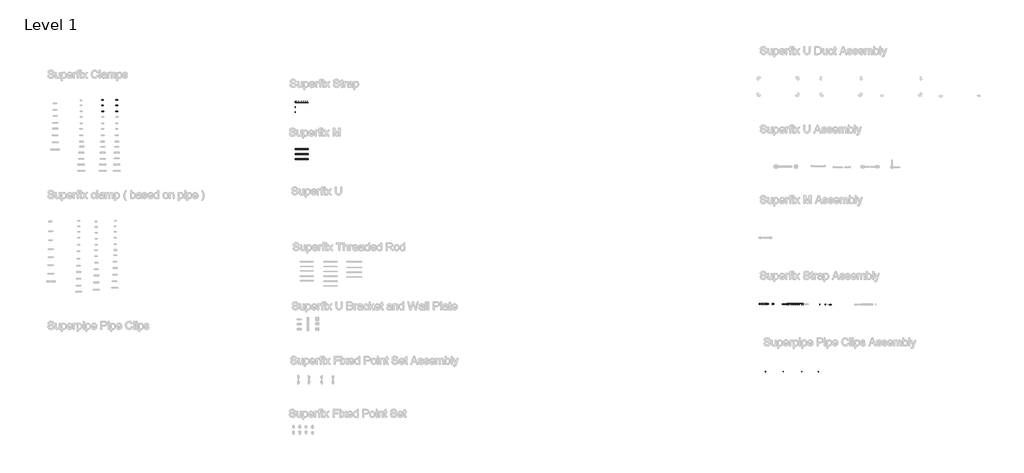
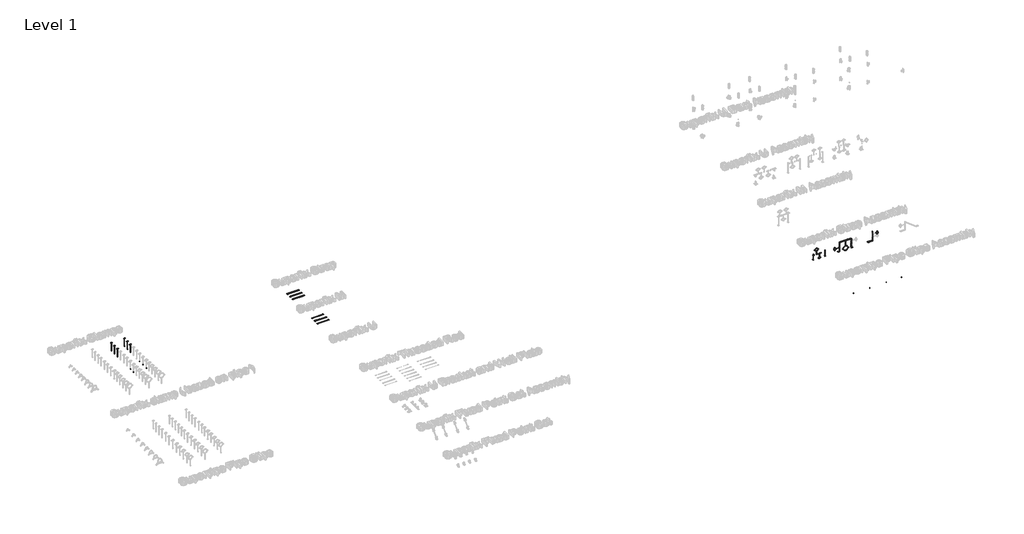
# One storey, part 5 of 32: 138 valves, 2 unitary equipment elements.
"""IFC4 building model written with IfcOpenShell, lengths in millimetres."""

from ifc_helpers import new_model, si_unit, origin, place, context, project, spatial, transform, mapped, element, save
from components import unitary_equipment_e487e5fd, valve_4cd83ece, valve_5304cde6, valve_b4b668c8, valve_03d34d46, valve_3ecbcef6, valve_9efe13c8, valve_b67d411c, valve_2c299770, valve_541e58e5, valve_9317ca73, valve_400a6949, valve_dc9e7541, valve_fd664f3f, valve_c1f0a65c, valve_76fbe92c, valve_fad8a5b8, valve_cdfc1e77, valve_7fccb85c, valve_54fbe6a6, valve_d78be41b, valve_1a68cbfa, hexagon_nut_galvanized_extra_m10_fcef541f, hexagon_nut_galvanized_extra_m8_53389388, valve_42e91783, superfix_hexagon_screw_galvanized_39733bb5, superfix_m_extra_beb970f8, superfix_strap_92ff0648, superfix_strap_170edda0, superfix_strap_0810b350, superfix_strap_981cfdac, superfix_strap_extra_1f4a646b

model = new_model("IFC4")

# Units and contexts
model_context = context("Model", 3, world=origin())
ifc_project = project(units=[si_unit("LENGTHUNIT", "METRE", prefix="MILLI")], contexts=[model_context])

# Site, building, storey
site = spatial("IfcSite", under=ifc_project)
building = spatial("IfcBuilding", under=site)
storey = spatial("IfcBuildingStorey", under=building, Name="Level 1", Elevation=0.0)

# Unitary equipment
placement = place(None, origin())
unitary_equipment_shape = unitary_equipment_e487e5fd(model_context)
element("IfcUnitaryEquipment", 1, ObjectType="1_INS_MQA-R : MQA-R", at=placement, inside=storey, context=model_context, shape_type="MappedRepresentation", body=[
    mapped(unitary_equipment_shape, transform((-22566.5211936, 20812.4684398, 0.0), x_axis=(0.0, 1.0, 0.0), y_axis=(-1.0, 0.0, 0.0), z_axis=(0.0, 0.0, 1.0))),
])
element("IfcUnitaryEquipment", 2, ObjectType="1_INS_MQA-R : MQA-R", at=placement, inside=storey, context=model_context, shape_type="MappedRepresentation", body=[
    mapped(unitary_equipment_shape, transform((-22066.5211936, 20812.4684398, 0.0), x_axis=(0.0, 1.0, 0.0), y_axis=(-1.0, 0.0, 0.0), z_axis=(0.0, 0.0, 1.0))),
])

# Valves
valve_shape = valve_4cd83ece(model_context)
element("IfcValve", 3, ObjectType="Superfix Threaded Rod (used for clamps) : Threaded Rod - 1000 mm (used for clamps)", at=placement, inside=storey, context=model_context, shape_type="MappedRepresentation", body=[
    mapped(valve_shape, transform((-22566.5211936, 20812.4684398, 0.0), x_axis=(0.0, 0.0, 1.0), y_axis=(1.0, 0.0, 0.0), z_axis=(0.0, 1.0, 0.0))),
])
element("IfcValve", 4, ObjectType="Superfix Threaded Rod (used for clamps) : Threaded Rod - 1000 mm (used for clamps)", at=placement, inside=storey, context=model_context, shape_type="MappedRepresentation", body=[
    mapped(valve_shape, transform((-22066.5211936, 20812.4684398, 0.0), x_axis=(0.0, 0.0, 1.0), y_axis=(1.0, 0.0, 0.0), z_axis=(0.0, 1.0, 0.0))),
])
valve_2_shape = valve_5304cde6(model_context)
element("IfcValve", 5, ObjectType="Superfix Threaded Rod (used for clamps) : Threaded Rod - 1000 mm (used for clamps)", at=placement, inside=storey, context=model_context, shape_type="MappedRepresentation", body=[
    mapped(valve_2_shape, transform((-22299.5211936, 20812.4684398, 202.0), x_axis=(0.0, 0.0, -1.0), y_axis=(-1.0, 0.0, 0.0), z_axis=(0.0, 1.0, 0.0))),
])
valve_3_shape = valve_b4b668c8(model_context)
element("IfcValve", 6, ObjectType="Superfix DG2 Clamp : Superfix DG2 Clamp", at=placement, inside=storey, context=model_context, shape_type="MappedRepresentation", body=[
    mapped(valve_3_shape, transform((-21204.0211936, 20799.485539, 402.0), x_axis=(0.0, -1.0, 0.0), y_axis=(-1.0, 0.0, 0.0), z_axis=(0.0, 0.0, -1.0))),
])
valve_4_shape = valve_03d34d46(model_context)
element("IfcValve", 7, ObjectType="Superfix DG2 Clamp : Superfix DG2 Clamp", at=placement, inside=storey, context=model_context, shape_type="MappedRepresentation", body=[
    mapped(valve_4_shape, transform((-22424.5211936, 20812.4684398, 202.0), x_axis=(0.0, 1.0, 0.0), y_axis=(-1.0, 0.0, 0.0), z_axis=(0.0, 0.0, 1.0))),
])
valve_5_shape = valve_3ecbcef6(model_context)
element("IfcValve", 8, ObjectType="Superfix Threaded Rod (used for clamps) : Threaded Rod - 1000 mm (used for clamps)", at=placement, inside=storey, context=model_context, shape_type="MappedRepresentation", body=[
    mapped(valve_5_shape, transform((-22424.5211936, 20812.4684398, 202.0), x_axis=(0.0, 0.0, 1.0), y_axis=(1.0, 0.0, 0.0), z_axis=(0.0, 1.0, 0.0))),
])
valve_6_shape = valve_9efe13c8(model_context)
element("IfcValve", 9, ObjectType="Superfix DG2 Clamp : Superfix DG2 Clamp", at=placement, inside=storey, context=model_context, shape_type="MappedRepresentation", body=[
    mapped(valve_6_shape, transform((-20075.2249053, 20789.480189, 287.5), x_axis=(0.0, 1.0, 0.0), y_axis=(0.0, 0.0, 1.0), z_axis=(1.0, 0.0, 0.0))),
])
element("IfcValve", 10, ObjectType="Superfix DG2 Clamp : Superfix DG2 Clamp", at=placement, inside=storey, context=model_context, shape_type="MappedRepresentation", body=[
    mapped(valve_6_shape, transform((-21464.5211936, 20799.485539, 167.25), x_axis=(0.0, -1.0, 0.0), y_axis=(0.0, 0.0, 1.0), z_axis=(-1.0, 0.0, 0.0))),
])
valve_7_shape = valve_b67d411c(model_context)
element("IfcValve", 11, ObjectType="Superfix Threaded Rod (used for clamps) : Threaded Rod - 1000 mm (used for clamps)", at=placement, inside=storey, context=model_context, shape_type="MappedRepresentation", body=[
    mapped(valve_7_shape, transform((-21464.5211936, 20799.485539, 167.25), x_axis=(-1.0, 0.0, 0.0), y_axis=(0.0, 0.0, -1.0), z_axis=(0.0, -1.0, 0.0))),
])
valve_8_shape = valve_2c299770(model_context)
element("IfcValve", 12, ObjectType="Superfix DG2 Clamp : Superfix DG2 Clamp", at=placement, inside=storey, context=model_context, shape_type="MappedRepresentation", body=[
    mapped(valve_8_shape, transform((-22299.5211936, 20812.4684398, 202.0), x_axis=(0.0, 1.0, 0.0), y_axis=(1.0, 0.0, 0.0), z_axis=(0.0, 0.0, -1.0))),
])
valve_9_shape = valve_541e58e5(model_context)
element("IfcValve", 13, ObjectType="Superfix DG2 Clamp Extra : Superfix DG2 Clamp Extra", at=placement, inside=storey, context=model_context, shape_type="MappedRepresentation", body=[
    mapped(valve_9_shape, transform((-47680.7889153, 28620.0778121, 0.0), x_axis=(0.0, -1.0, 0.0), y_axis=(1.0, 0.0, 0.0), z_axis=(0.0, 0.0, 1.0))),
])
valve_10_shape = valve_9317ca73(model_context)
element("IfcValve", 14, ObjectType="Superfix DG2 Clamp Extra : Superfix DG2 Clamp Extra", at=placement, inside=storey, context=model_context, shape_type="MappedRepresentation", body=[
    mapped(valve_10_shape, transform((-47674.2889153, 28179.0778121, 0.0), x_axis=(0.0, -1.0, 0.0), y_axis=(1.0, 0.0, 0.0), z_axis=(0.0, 0.0, 1.0))),
])
valve_11_shape = valve_400a6949(model_context)
element("IfcValve", 15, ObjectType="Superfix DG2 Clamp Extra : Superfix DG2 Clamp Extra", at=placement, inside=storey, context=model_context, shape_type="MappedRepresentation", body=[
    mapped(valve_11_shape, transform((-47679.2889153, 28400.0778121, 0.0), x_axis=(0.0, -1.0, 0.0), y_axis=(1.0, 0.0, 0.0), z_axis=(0.0, 0.0, 1.0))),
])
valve_12_shape = valve_dc9e7541(model_context)
element("IfcValve", 16, ObjectType="Superfix DG2 Clamp Extra + : Superfix DG2 Clamp Extra +", at=placement, inside=storey, context=model_context, shape_type="MappedRepresentation", body=[
    mapped(valve_12_shape, transform((-47132.8023141, 28620.0778121, 0.0), x_axis=(0.0, -1.0, 0.0), y_axis=(1.0, 0.0, 0.0), z_axis=(0.0, 0.0, 1.0))),
])
valve_13_shape = valve_fd664f3f(model_context)
element("IfcValve", 17, ObjectType="Superfix DG2 Clamp Extra + : Superfix DG2 Clamp Extra +", at=placement, inside=storey, context=model_context, shape_type="MappedRepresentation", body=[
    mapped(valve_13_shape, transform((-47134.3023141, 28400.0778121, 0.0), x_axis=(0.0, -1.0, 0.0), y_axis=(1.0, 0.0, 0.0), z_axis=(0.0, 0.0, 1.0))),
])
valve_14_shape = valve_c1f0a65c(model_context)
element("IfcValve", 18, ObjectType="Superfix DG2 Clamp Extra + : Superfix DG2 Clamp Extra +", at=placement, inside=storey, context=model_context, shape_type="MappedRepresentation", body=[
    mapped(valve_14_shape, transform((-47132.8023141, 28179.0778121, 0.0), x_axis=(0.0, -1.0, 0.0), y_axis=(1.0, 0.0, 0.0), z_axis=(0.0, 0.0, 1.0))),
])
valve_15_shape = valve_76fbe92c(model_context)
element("IfcValve", 19, ObjectType="Superfix Flat Washer : Superfix Flat Washer M4x10x1", at=placement, inside=storey, context=model_context, shape_type="MappedRepresentation", body=[
    mapped(valve_15_shape, transform((-22353.6380687, 18221.8902814, -2.008864), x_axis=(1.0, 0.0, 0.0), y_axis=(0.0, -1.0, 0.0), z_axis=(0.0, 0.0, -1.0))),
])
element("IfcValve", 20, ObjectType="Superfix Flat Washer : Superfix Flat Washer M4x10x1", at=placement, inside=storey, context=model_context, shape_type="MappedRepresentation", body=[
    mapped(valve_15_shape, transform((-21673.6380687, 18221.8902814, -2.008864), x_axis=(1.0, 0.0, 0.0), y_axis=(0.0, -1.0, 0.0), z_axis=(0.0, 0.0, -1.0))),
])
element("IfcValve", 21, ObjectType="Superfix Flat Washer : Superfix Flat Washer M4x10x1", at=placement, inside=storey, context=model_context, shape_type="MappedRepresentation", body=[
    mapped(valve_15_shape, transform((-20973.6380687, 18221.8902814, -2.008864), x_axis=(1.0, 0.0, 0.0), y_axis=(0.0, -1.0, 0.0), z_axis=(0.0, 0.0, -1.0))),
])
element("IfcValve", 22, ObjectType="Superfix Flat Washer : Superfix Flat Washer M4x10x1", at=placement, inside=storey, context=model_context, shape_type="MappedRepresentation", body=[
    mapped(valve_15_shape, transform((-20333.6380687, 18221.8902814, -2.008864), x_axis=(1.0, 0.0, 0.0), y_axis=(0.0, -1.0, 0.0), z_axis=(0.0, 0.0, -1.0))),
])
element("IfcValve", 23, ObjectType="Superfix Flat Washer : Superfix Flat Washer M4x10x1", at=placement, inside=storey, context=model_context, shape_type="MappedRepresentation", body=[
    mapped(valve_15_shape, transform((-21363.2711936, 20799.485539, 399.991136), x_axis=(1.0, 0.0, 0.0), y_axis=(0.0, -1.0, 0.0), z_axis=(0.0, 0.0, -1.0))),
])
element("IfcValve", 24, ObjectType="Superfix Flat Washer : Superfix Flat Washer M4x10x1", at=placement, inside=storey, context=model_context, shape_type="MappedRepresentation", body=[
    mapped(valve_15_shape, transform((-21275.4513629, 20799.485539, 399.991136), x_axis=(1.0, 0.0, 0.0), y_axis=(0.0, -1.0, 0.0), z_axis=(0.0, 0.0, -1.0))),
])
element("IfcValve", 25, ObjectType="Superfix Flat Washer : Superfix Flat Washer M4x10x1", at=placement, inside=storey, context=model_context, shape_type="MappedRepresentation", body=[
    mapped(valve_15_shape, transform((-21466.5300576, 20799.485539, 267.1301694), x_axis=(0.0, 0.0, -1.0), y_axis=(0.0, -1.0, 0.0), z_axis=(-1.0, 0.0, 0.0))),
])
element("IfcValve", 26, ObjectType="Superfix Flat Washer : Superfix Flat Washer M4x10x1", at=placement, inside=storey, context=model_context, shape_type="MappedRepresentation", body=[
    mapped(valve_15_shape, transform((-21466.5300576, 20799.485539, 50.5301694), x_axis=(0.0, 0.0, -1.0), y_axis=(0.0, -1.0, 0.0), z_axis=(-1.0, 0.0, 0.0))),
])
element("IfcValve", 27, ObjectType="Superfix Flat Washer : Superfix Flat Washer M4x10x1", at=placement, inside=storey, context=model_context, shape_type="MappedRepresentation", body=[
    mapped(valve_15_shape, transform((-21130.6477011, 20799.485539, 399.991136), x_axis=(1.0, 0.0, 0.0), y_axis=(0.0, -1.0, 0.0), z_axis=(0.0, 0.0, -1.0))),
])
element("IfcValve", 28, ObjectType="Superfix Flat Washer : Superfix Flat Washer M4x10x1", at=placement, inside=storey, context=model_context, shape_type="MappedRepresentation", body=[
    mapped(valve_15_shape, transform((-22375.4013629, 20812.4684398, 204.008864), x_axis=(1.0, 0.0, 0.0), y_axis=(0.0, 1.0, 0.0), z_axis=(0.0, 0.0, 1.0))),
])
element("IfcValve", 29, ObjectType="Superfix Flat Washer : Superfix Flat Washer M4x10x1", at=placement, inside=storey, context=model_context, shape_type="MappedRepresentation", body=[
    mapped(valve_15_shape, transform((-22237.2711936, 20812.4684398, 204.008864), x_axis=(1.0, 0.0, 0.0), y_axis=(0.0, 1.0, 0.0), z_axis=(0.0, 0.0, 1.0))),
])
element("IfcValve", 30, ObjectType="Superfix Flat Washer : Superfix Flat Washer M4x10x1", at=placement, inside=storey, context=model_context, shape_type="MappedRepresentation", body=[
    mapped(valve_15_shape, transform((-22517.0513629, 20812.4684398, 204.008864), x_axis=(1.0, 0.0, 0.0), y_axis=(0.0, 1.0, 0.0), z_axis=(0.0, 0.0, 1.0))),
])
valve_16_shape = valve_fad8a5b8(model_context)
element("IfcValve", 31, ObjectType="Superfix Flat Washer : Superfix Flat Washer M8x15x1.5", at=placement, inside=storey, context=model_context, shape_type="MappedRepresentation", body=[
    mapped(valve_16_shape, transform((-22566.5211936, 20812.4684398, 198.4), x_axis=(0.0, 1.0, 0.0), y_axis=(-1.0, 0.0, 0.0), z_axis=(0.0, 0.0, 1.0))),
])
element("IfcValve", 32, ObjectType="Superfix Flat Washer : Superfix Flat Washer M8x15x1.5", at=placement, inside=storey, context=model_context, shape_type="MappedRepresentation", body=[
    mapped(valve_16_shape, transform((-22566.5211936, 20812.4684398, 203.0), x_axis=(0.0, 1.0, 0.0), y_axis=(-1.0, 0.0, 0.0), z_axis=(0.0, 0.0, 1.0))),
])
element("IfcValve", 33, ObjectType="Superfix Flat Washer : Superfix Flat Washer M8x15x1.5", at=placement, inside=storey, context=model_context, shape_type="MappedRepresentation", body=[
    mapped(valve_16_shape, transform((-22066.5211936, 20812.4684398, 203.0), x_axis=(0.0, 1.0, 0.0), y_axis=(-1.0, 0.0, 0.0), z_axis=(0.0, 0.0, 1.0))),
])
element("IfcValve", 34, ObjectType="Superfix Flat Washer : Superfix Flat Washer M8x15x1.5", at=placement, inside=storey, context=model_context, shape_type="MappedRepresentation", body=[
    mapped(valve_16_shape, transform((-22066.5211936, 20812.4684398, 198.4), x_axis=(0.0, 1.0, 0.0), y_axis=(-1.0, 0.0, 0.0), z_axis=(0.0, 0.0, 1.0))),
])
element("IfcValve", 35, ObjectType="Superfix Flat Washer : Superfix Flat Washer M8x15x1.5", at=placement, inside=storey, context=model_context, shape_type="MappedRepresentation", body=[
    mapped(valve_16_shape, transform((-22299.5211936, 20812.4684398, 199.0), x_axis=(0.0, 1.0, 0.0), y_axis=(1.0, 0.0, 0.0), z_axis=(0.0, 0.0, -1.0))),
])
element("IfcValve", 36, ObjectType="Superfix Flat Washer : Superfix Flat Washer M8x15x1.5", at=placement, inside=storey, context=model_context, shape_type="MappedRepresentation", body=[
    mapped(valve_16_shape, transform((-22299.5211936, 20812.4684398, 203.6), x_axis=(0.0, 1.0, 0.0), y_axis=(1.0, 0.0, 0.0), z_axis=(0.0, 0.0, -1.0))),
])
valve_17_shape = valve_cdfc1e77(model_context)
element("IfcValve", 37, ObjectType="Superfix Flat Washer : Superfix Flat Washer M10x20x1.5", at=placement, inside=storey, context=model_context, shape_type="MappedRepresentation", body=[
    mapped(valve_17_shape, transform((-21467.5211936, 20799.485539, 167.25), x_axis=(0.0, -1.0, 0.0), y_axis=(0.0, 0.0, 1.0), z_axis=(-1.0, 0.0, 0.0))),
])
element("IfcValve", 38, ObjectType="Superfix Flat Washer : Superfix Flat Washer M10x20x1.5", at=placement, inside=storey, context=model_context, shape_type="MappedRepresentation", body=[
    mapped(valve_17_shape, transform((-21462.5211936, 20799.485539, 167.25), x_axis=(0.0, -1.0, 0.0), y_axis=(0.0, 0.0, 1.0), z_axis=(-1.0, 0.0, 0.0))),
])
element("IfcValve", 39, ObjectType="Superfix Flat Washer : Superfix Flat Washer M10x20x1.5", at=placement, inside=storey, context=model_context, shape_type="MappedRepresentation", body=[
    mapped(valve_17_shape, transform((-21204.0211936, 20799.485539, 399.0), x_axis=(0.0, -1.0, 0.0), y_axis=(-1.0, 0.0, 0.0), z_axis=(0.0, 0.0, -1.0))),
])
element("IfcValve", 40, ObjectType="Superfix Flat Washer : Superfix Flat Washer M10x20x1.5", at=placement, inside=storey, context=model_context, shape_type="MappedRepresentation", body=[
    mapped(valve_17_shape, transform((-21204.0211936, 20799.485539, 404.0), x_axis=(0.0, -1.0, 0.0), y_axis=(-1.0, 0.0, 0.0), z_axis=(0.0, 0.0, -1.0))),
])
element("IfcValve", 41, ObjectType="Superfix Flat Washer : Superfix Flat Washer M10x20x1.5", at=placement, inside=storey, context=model_context, shape_type="MappedRepresentation", body=[
    mapped(valve_17_shape, transform((-22424.5211936, 20812.4684398, 205.0), x_axis=(0.0, 1.0, 0.0), y_axis=(-1.0, 0.0, 0.0), z_axis=(0.0, 0.0, 1.0))),
])
element("IfcValve", 42, ObjectType="Superfix Flat Washer : Superfix Flat Washer M10x20x1.5", at=placement, inside=storey, context=model_context, shape_type="MappedRepresentation", body=[
    mapped(valve_17_shape, transform((-22424.5211936, 20812.4684398, 200.0), x_axis=(0.0, 1.0, 0.0), y_axis=(-1.0, 0.0, 0.0), z_axis=(0.0, 0.0, 1.0))),
])
element("IfcValve", 43, ObjectType="Superfix Flat Washer : Superfix Flat Washer Extra M8x15x1.5", at=placement, inside=storey, context=model_context, shape_type="MappedRepresentation", body=[
    mapped(valve_16_shape, transform((-47680.7889153, 28620.0778121, 5.0), x_axis=(1.0, 0.0, 0.0), y_axis=(0.0, 1.0, 0.0), z_axis=(0.0, 0.0, 1.0))),
])
element("IfcValve", 44, ObjectType="Superfix Flat Washer : Superfix Flat Washer Extra M8x15x1.5", at=placement, inside=storey, context=model_context, shape_type="MappedRepresentation", body=[
    mapped(valve_16_shape, transform((-47680.7889153, 28620.0778121, -1.6), x_axis=(1.0, 0.0, 0.0), y_axis=(0.0, 1.0, 0.0), z_axis=(0.0, 0.0, 1.0))),
])
element("IfcValve", 45, ObjectType="Superfix Flat Washer : Superfix Flat Washer Extra M8x15x1.5", at=placement, inside=storey, context=model_context, shape_type="MappedRepresentation", body=[
    mapped(valve_16_shape, transform((-47679.2889153, 28400.0778121, 5.0), x_axis=(1.0, 0.0, 0.0), y_axis=(0.0, 1.0, 0.0), z_axis=(0.0, 0.0, 1.0))),
])
element("IfcValve", 46, ObjectType="Superfix Flat Washer : Superfix Flat Washer Extra M8x15x1.5", at=placement, inside=storey, context=model_context, shape_type="MappedRepresentation", body=[
    mapped(valve_16_shape, transform((-47679.2889153, 28400.0778121, -1.6), x_axis=(1.0, 0.0, 0.0), y_axis=(0.0, 1.0, 0.0), z_axis=(0.0, 0.0, 1.0))),
])
element("IfcValve", 47, ObjectType="Superfix Flat Washer : Superfix Flat Washer Extra M8x15x1.5", at=placement, inside=storey, context=model_context, shape_type="MappedRepresentation", body=[
    mapped(valve_16_shape, transform((-47674.2889153, 28179.0778121, 5.0), x_axis=(1.0, 0.0, 0.0), y_axis=(0.0, 1.0, 0.0), z_axis=(0.0, 0.0, 1.0))),
])
element("IfcValve", 48, ObjectType="Superfix Flat Washer : Superfix Flat Washer Extra M8x15x1.5", at=placement, inside=storey, context=model_context, shape_type="MappedRepresentation", body=[
    mapped(valve_16_shape, transform((-47674.2889153, 28179.0778121, -1.6), x_axis=(1.0, 0.0, 0.0), y_axis=(0.0, 1.0, 0.0), z_axis=(0.0, 0.0, 1.0))),
])
element("IfcValve", 49, ObjectType="Superfix Flat Washer : Superfix Flat Washer EXtra M10x20x1.5", at=placement, inside=storey, context=model_context, shape_type="MappedRepresentation", body=[
    mapped(valve_17_shape, transform((-47669.2889153, 27260.0778121, 5.0), x_axis=(1.0, 0.0, 0.0), y_axis=(0.0, 1.0, 0.0), z_axis=(0.0, 0.0, 1.0))),
])
element("IfcValve", 50, ObjectType="Superfix Flat Washer : Superfix Flat Washer EXtra M10x20x1.5", at=placement, inside=storey, context=model_context, shape_type="MappedRepresentation", body=[
    mapped(valve_17_shape, transform((-47669.2889153, 27260.0778121, -2.0), x_axis=(1.0, 0.0, 0.0), y_axis=(0.0, 1.0, 0.0), z_axis=(0.0, 0.0, 1.0))),
])
element("IfcValve", 51, ObjectType="Superfix Flat Washer : Superfix Flat Washer EXtra M10x20x1.5", at=placement, inside=storey, context=model_context, shape_type="MappedRepresentation", body=[
    mapped(valve_17_shape, transform((-47669.2889153, 27020.0778121, 5.0), x_axis=(1.0, 0.0, 0.0), y_axis=(0.0, 1.0, 0.0), z_axis=(0.0, 0.0, 1.0))),
])
element("IfcValve", 52, ObjectType="Superfix Flat Washer : Superfix Flat Washer EXtra M10x20x1.5", at=placement, inside=storey, context=model_context, shape_type="MappedRepresentation", body=[
    mapped(valve_17_shape, transform((-47669.2889153, 27020.0778121, -2.0), x_axis=(1.0, 0.0, 0.0), y_axis=(0.0, 1.0, 0.0), z_axis=(0.0, 0.0, 1.0))),
])
element("IfcValve", 53, ObjectType="Superfix Flat Washer : Superfix Flat Washer Extra +  M8x15x1.5", at=placement, inside=storey, context=model_context, shape_type="MappedRepresentation", body=[
    mapped(valve_16_shape, transform((-47132.8023141, 28620.0778121, -1.6), x_axis=(1.0, 0.0, 0.0), y_axis=(0.0, 1.0, 0.0), z_axis=(0.0, 0.0, 1.0))),
])
element("IfcValve", 54, ObjectType="Superfix Flat Washer : Superfix Flat Washer Extra +  M8x15x1.5", at=placement, inside=storey, context=model_context, shape_type="MappedRepresentation", body=[
    mapped(valve_16_shape, transform((-47132.8023141, 28620.0778121, 5.0), x_axis=(1.0, 0.0, 0.0), y_axis=(0.0, 1.0, 0.0), z_axis=(0.0, 0.0, 1.0))),
])
element("IfcValve", 55, ObjectType="Superfix Flat Washer : Superfix Flat Washer Extra +  M8x15x1.5", at=placement, inside=storey, context=model_context, shape_type="MappedRepresentation", body=[
    mapped(valve_16_shape, transform((-47134.3023141, 28400.0778121, -1.6), x_axis=(1.0, 0.0, 0.0), y_axis=(0.0, 1.0, 0.0), z_axis=(0.0, 0.0, 1.0))),
])
element("IfcValve", 56, ObjectType="Superfix Flat Washer : Superfix Flat Washer Extra +  M8x15x1.5", at=placement, inside=storey, context=model_context, shape_type="MappedRepresentation", body=[
    mapped(valve_16_shape, transform((-47134.3023141, 28400.0778121, 5.0), x_axis=(1.0, 0.0, 0.0), y_axis=(0.0, 1.0, 0.0), z_axis=(0.0, 0.0, 1.0))),
])
element("IfcValve", 57, ObjectType="Superfix Flat Washer : Superfix Flat Washer Extra +  M8x15x1.5", at=placement, inside=storey, context=model_context, shape_type="MappedRepresentation", body=[
    mapped(valve_16_shape, transform((-47132.8023141, 28179.0778121, -1.6), x_axis=(1.0, 0.0, 0.0), y_axis=(0.0, 1.0, 0.0), z_axis=(0.0, 0.0, 1.0))),
])
element("IfcValve", 58, ObjectType="Superfix Flat Washer : Superfix Flat Washer Extra +  M8x15x1.5", at=placement, inside=storey, context=model_context, shape_type="MappedRepresentation", body=[
    mapped(valve_16_shape, transform((-47132.8023141, 28179.0778121, 5.0), x_axis=(1.0, 0.0, 0.0), y_axis=(0.0, 1.0, 0.0), z_axis=(0.0, 0.0, 1.0))),
])
element("IfcValve", 59, ObjectType="Superfix Flat Washer : Superfix Flat Washer Extra +  M8x15x1.5", at=placement, inside=storey, context=model_context, shape_type="MappedRepresentation", body=[
    mapped(valve_16_shape, transform((-47132.8023141, 27500.0778121, -1.6), x_axis=(1.0, 0.0, 0.0), y_axis=(0.0, 1.0, 0.0), z_axis=(0.0, 0.0, 1.0))),
])
element("IfcValve", 60, ObjectType="Superfix Flat Washer : Superfix Flat Washer Extra +  M8x15x1.5", at=placement, inside=storey, context=model_context, shape_type="MappedRepresentation", body=[
    mapped(valve_16_shape, transform((-47132.8023141, 27500.0778121, 5.0), x_axis=(1.0, 0.0, 0.0), y_axis=(0.0, 1.0, 0.0), z_axis=(0.0, 0.0, 1.0))),
])
element("IfcValve", 61, ObjectType="Superfix Flat Washer : Superfix Flat Washer EXtra +  M10x20x1.5", at=placement, inside=storey, context=model_context, shape_type="MappedRepresentation", body=[
    mapped(valve_17_shape, transform((-47132.8023141, 27260.0778121, -2.0), x_axis=(1.0, 0.0, 0.0), y_axis=(0.0, 1.0, 0.0), z_axis=(0.0, 0.0, 1.0))),
])
element("IfcValve", 62, ObjectType="Superfix Flat Washer : Superfix Flat Washer EXtra +  M10x20x1.5", at=placement, inside=storey, context=model_context, shape_type="MappedRepresentation", body=[
    mapped(valve_17_shape, transform((-47132.8023141, 27260.0778121, 5.0), x_axis=(1.0, 0.0, 0.0), y_axis=(0.0, 1.0, 0.0), z_axis=(0.0, 0.0, 1.0))),
])
element("IfcValve", 63, ObjectType="Superfix Flat Washer : Superfix Flat Washer EXtra +  M10x20x1.5", at=placement, inside=storey, context=model_context, shape_type="MappedRepresentation", body=[
    mapped(valve_17_shape, transform((-47132.8023141, 27020.0778121, -2.0), x_axis=(1.0, 0.0, 0.0), y_axis=(0.0, 1.0, 0.0), z_axis=(0.0, 0.0, 1.0))),
])
element("IfcValve", 64, ObjectType="Superfix Flat Washer : Superfix Flat Washer EXtra +  M10x20x1.5", at=placement, inside=storey, context=model_context, shape_type="MappedRepresentation", body=[
    mapped(valve_17_shape, transform((-47132.8023141, 27020.0778121, 5.0), x_axis=(1.0, 0.0, 0.0), y_axis=(0.0, 1.0, 0.0), z_axis=(0.0, 0.0, 1.0))),
])
valve_18_shape = valve_7fccb85c(model_context)
element("IfcValve", 65, ObjectType="Superfix Threaded Rod (used for clamps) : Threaded Rod - 1000 mm (used for clamps)", at=placement, inside=storey, context=model_context, shape_type="MappedRepresentation", body=[
    mapped(valve_18_shape, transform((-21204.0211936, 20799.485539, 402.0), x_axis=(0.0, 0.0, -1.0), y_axis=(1.0, 0.0, 0.0), z_axis=(0.0, -1.0, 0.0))),
])
valve_19_shape = valve_54fbe6a6(model_context)
element("IfcValve", 66, ObjectType="Superfix Threaded Rod (used for clamps) : Threaded Rod  Extra  - 1000 mm (used for clamps)", at=placement, inside=storey, context=model_context, shape_type="MappedRepresentation", body=[
    mapped(valve_19_shape, transform((-47680.7889153, 28620.0778121, 0.0), x_axis=(0.0, 0.0, 1.0), y_axis=(-1.0, 0.0, 0.0), z_axis=(0.0, -1.0, 0.0))),
])
element("IfcValve", 67, ObjectType="Superfix Threaded Rod (used for clamps) : Threaded Rod - 1000 mm (used for clamps)", at=placement, inside=storey, context=model_context, shape_type="MappedRepresentation", body=[
    mapped(valve_19_shape, transform((-47132.8023141, 28620.0778121, 0.0), x_axis=(0.0, 0.0, 1.0), y_axis=(-1.0, 0.0, 0.0), z_axis=(0.0, -1.0, 0.0))),
])
valve_20_shape = valve_d78be41b(model_context)
element("IfcValve", 68, ObjectType="Superfix Threaded Rod (used for clamps) : Threaded Rod  Extra  - 1000 mm (used for clamps)", at=placement, inside=storey, context=model_context, shape_type="MappedRepresentation", body=[
    mapped(valve_20_shape, transform((-47679.2889153, 28400.0778121, 0.0), x_axis=(0.0, 0.0, 1.0), y_axis=(-1.0, 0.0, 0.0), z_axis=(0.0, -1.0, 0.0))),
])
valve_21_shape = valve_1a68cbfa(model_context)
element("IfcValve", 69, ObjectType="Superfix Threaded Rod (used for clamps) : Threaded Rod  Extra  - 1000 mm (used for clamps)", at=placement, inside=storey, context=model_context, shape_type="MappedRepresentation", body=[
    mapped(valve_21_shape, transform((-47674.2889153, 28179.0778121, 0.0), x_axis=(0.0, 0.0, 1.0), y_axis=(-1.0, 0.0, 0.0), z_axis=(0.0, -1.0, 0.0))),
])
element("IfcValve", 70, ObjectType="Superfix Threaded Rod (used for clamps) : Threaded Rod - 1000 mm (used for clamps)", at=placement, inside=storey, context=model_context, shape_type="MappedRepresentation", body=[
    mapped(valve_20_shape, transform((-47134.3023141, 28400.0778121, 0.0), x_axis=(0.0, 0.0, 1.0), y_axis=(-1.0, 0.0, 0.0), z_axis=(0.0, -1.0, 0.0))),
])
element("IfcValve", 71, ObjectType="Superfix Threaded Rod (used for clamps) : Threaded Rod - 1000 mm (used for clamps)", at=placement, inside=storey, context=model_context, shape_type="MappedRepresentation", body=[
    mapped(valve_21_shape, transform((-47132.8023141, 28179.0778121, 0.0), x_axis=(0.0, 0.0, 1.0), y_axis=(-1.0, 0.0, 0.0), z_axis=(0.0, -1.0, 0.0))),
])
hexagon_nut_galvanized_extra_m10_shape = hexagon_nut_galvanized_extra_m10_fcef541f(model_context)
element("IfcValve", 72, ObjectType="Superfix Hexagon Nut Galvanized : Hexagon Nut Galvanized Extra + M10", at=placement, inside=storey, context=model_context, shape_type="MappedRepresentation", body=[
    mapped(hexagon_nut_galvanized_extra_m10_shape, transform((-47132.8023141, 27260.0778121, 0.0), x_axis=(0.0, -1.0, 0.0), y_axis=(-1.0, 0.0, 0.0), z_axis=(0.0, 0.0, -1.0))),
])
element("IfcValve", 73, ObjectType="Superfix Hexagon Nut Galvanized : Hexagon Nut Galvanized Extra + M10", at=placement, inside=storey, context=model_context, shape_type="MappedRepresentation", body=[
    mapped(hexagon_nut_galvanized_extra_m10_shape, transform((-47132.8023141, 27260.0778121, 5.0), x_axis=(0.0, -1.0, 0.0), y_axis=(1.0, 0.0, 0.0), z_axis=(0.0, 0.0, 1.0))),
])
element("IfcValve", 74, ObjectType="Superfix Hexagon Nut Galvanized : Hexagon Nut Galvanized Extra + M10", at=placement, inside=storey, context=model_context, shape_type="MappedRepresentation", body=[
    mapped(hexagon_nut_galvanized_extra_m10_shape, transform((-47132.8023141, 27020.0778121, 0.0), x_axis=(0.0, -1.0, 0.0), y_axis=(-1.0, 0.0, 0.0), z_axis=(0.0, 0.0, -1.0))),
])
element("IfcValve", 75, ObjectType="Superfix Hexagon Nut Galvanized : Hexagon Nut Galvanized Extra + M10", at=placement, inside=storey, context=model_context, shape_type="MappedRepresentation", body=[
    mapped(hexagon_nut_galvanized_extra_m10_shape, transform((-47132.8023141, 27020.0778121, 5.0), x_axis=(0.0, -1.0, 0.0), y_axis=(1.0, 0.0, 0.0), z_axis=(0.0, 0.0, 1.0))),
])
hexagon_nut_galvanized_extra_m8_shape = hexagon_nut_galvanized_extra_m8_53389388(model_context)
element("IfcValve", 76, ObjectType="Superfix Hexagon Nut Galvanized : Hexagon Nut Galvanized Extra +M8", at=placement, inside=storey, context=model_context, shape_type="MappedRepresentation", body=[
    mapped(hexagon_nut_galvanized_extra_m8_shape, transform((-47132.8023141, 28620.0778121, 0.0), x_axis=(0.0, -1.0, 0.0), y_axis=(-1.0, 0.0, 0.0), z_axis=(0.0, 0.0, -1.0))),
])
element("IfcValve", 77, ObjectType="Superfix Hexagon Nut Galvanized : Hexagon Nut Galvanized Extra +M8", at=placement, inside=storey, context=model_context, shape_type="MappedRepresentation", body=[
    mapped(hexagon_nut_galvanized_extra_m8_shape, transform((-47132.8023141, 28620.0778121, 5.0), x_axis=(0.0, -1.0, 0.0), y_axis=(1.0, 0.0, 0.0), z_axis=(0.0, 0.0, 1.0))),
])
element("IfcValve", 78, ObjectType="Superfix Hexagon Nut Galvanized : Hexagon Nut Galvanized Extra +M8", at=placement, inside=storey, context=model_context, shape_type="MappedRepresentation", body=[
    mapped(hexagon_nut_galvanized_extra_m8_shape, transform((-47134.3023141, 28400.0778121, 0.0), x_axis=(0.0, -1.0, 0.0), y_axis=(-1.0, 0.0, 0.0), z_axis=(0.0, 0.0, -1.0))),
])
element("IfcValve", 79, ObjectType="Superfix Hexagon Nut Galvanized : Hexagon Nut Galvanized Extra +M8", at=placement, inside=storey, context=model_context, shape_type="MappedRepresentation", body=[
    mapped(hexagon_nut_galvanized_extra_m8_shape, transform((-47134.3023141, 28400.0778121, 5.0), x_axis=(0.0, -1.0, 0.0), y_axis=(1.0, 0.0, 0.0), z_axis=(0.0, 0.0, 1.0))),
])
element("IfcValve", 80, ObjectType="Superfix Hexagon Nut Galvanized : Hexagon Nut Galvanized Extra +M8", at=placement, inside=storey, context=model_context, shape_type="MappedRepresentation", body=[
    mapped(hexagon_nut_galvanized_extra_m8_shape, transform((-47132.8023141, 28179.0778121, 0.0), x_axis=(0.0, -1.0, 0.0), y_axis=(-1.0, 0.0, 0.0), z_axis=(0.0, 0.0, -1.0))),
])
element("IfcValve", 81, ObjectType="Superfix Hexagon Nut Galvanized : Hexagon Nut Galvanized Extra +M8", at=placement, inside=storey, context=model_context, shape_type="MappedRepresentation", body=[
    mapped(hexagon_nut_galvanized_extra_m8_shape, transform((-47132.8023141, 28179.0778121, 5.0), x_axis=(0.0, -1.0, 0.0), y_axis=(1.0, 0.0, 0.0), z_axis=(0.0, 0.0, 1.0))),
])
element("IfcValve", 82, ObjectType="Superfix Hexagon Nut Galvanized : Hexagon Nut Galvanized Extra M10", at=placement, inside=storey, context=model_context, shape_type="MappedRepresentation", body=[
    mapped(hexagon_nut_galvanized_extra_m10_shape, transform((-47669.2889153, 27260.0778121, 0.0), x_axis=(0.0, -1.0, 0.0), y_axis=(-1.0, 0.0, 0.0), z_axis=(0.0, 0.0, -1.0))),
])
element("IfcValve", 83, ObjectType="Superfix Hexagon Nut Galvanized : Hexagon Nut Galvanized Extra M10", at=placement, inside=storey, context=model_context, shape_type="MappedRepresentation", body=[
    mapped(hexagon_nut_galvanized_extra_m10_shape, transform((-47669.2889153, 27260.0778121, 5.0), x_axis=(0.0, -1.0, 0.0), y_axis=(1.0, 0.0, 0.0), z_axis=(0.0, 0.0, 1.0))),
])
element("IfcValve", 84, ObjectType="Superfix Hexagon Nut Galvanized : Hexagon Nut Galvanized Extra M10", at=placement, inside=storey, context=model_context, shape_type="MappedRepresentation", body=[
    mapped(hexagon_nut_galvanized_extra_m10_shape, transform((-47669.2889153, 27020.0778121, 0.0), x_axis=(0.0, -1.0, 0.0), y_axis=(-1.0, 0.0, 0.0), z_axis=(0.0, 0.0, -1.0))),
])
element("IfcValve", 85, ObjectType="Superfix Hexagon Nut Galvanized : Hexagon Nut Galvanized Extra M10", at=placement, inside=storey, context=model_context, shape_type="MappedRepresentation", body=[
    mapped(hexagon_nut_galvanized_extra_m10_shape, transform((-47669.2889153, 27020.0778121, 5.0), x_axis=(0.0, -1.0, 0.0), y_axis=(1.0, 0.0, 0.0), z_axis=(0.0, 0.0, 1.0))),
])
element("IfcValve", 86, ObjectType="Superfix Hexagon Nut Galvanized : Hexagon Nut Galvanized Extra M8", at=placement, inside=storey, context=model_context, shape_type="MappedRepresentation", body=[
    mapped(hexagon_nut_galvanized_extra_m8_shape, transform((-47680.7889153, 28620.0778121, 0.0), x_axis=(0.0, -1.0, 0.0), y_axis=(-1.0, 0.0, 0.0), z_axis=(0.0, 0.0, -1.0))),
])
element("IfcValve", 87, ObjectType="Superfix Hexagon Nut Galvanized : Hexagon Nut Galvanized Extra M8", at=placement, inside=storey, context=model_context, shape_type="MappedRepresentation", body=[
    mapped(hexagon_nut_galvanized_extra_m8_shape, transform((-47680.7889153, 28620.0778121, 5.0), x_axis=(0.0, -1.0, 0.0), y_axis=(1.0, 0.0, 0.0), z_axis=(0.0, 0.0, 1.0))),
])
element("IfcValve", 88, ObjectType="Superfix Hexagon Nut Galvanized : Hexagon Nut Galvanized Extra M8", at=placement, inside=storey, context=model_context, shape_type="MappedRepresentation", body=[
    mapped(hexagon_nut_galvanized_extra_m8_shape, transform((-47679.2889153, 28400.0778121, 0.0), x_axis=(0.0, -1.0, 0.0), y_axis=(-1.0, 0.0, 0.0), z_axis=(0.0, 0.0, -1.0))),
])
element("IfcValve", 89, ObjectType="Superfix Hexagon Nut Galvanized : Hexagon Nut Galvanized Extra M8", at=placement, inside=storey, context=model_context, shape_type="MappedRepresentation", body=[
    mapped(hexagon_nut_galvanized_extra_m8_shape, transform((-47679.2889153, 28400.0778121, 5.0), x_axis=(0.0, -1.0, 0.0), y_axis=(1.0, 0.0, 0.0), z_axis=(0.0, 0.0, 1.0))),
])
element("IfcValve", 90, ObjectType="Superfix Hexagon Nut Galvanized : Hexagon Nut Galvanized Extra M8", at=placement, inside=storey, context=model_context, shape_type="MappedRepresentation", body=[
    mapped(hexagon_nut_galvanized_extra_m8_shape, transform((-47674.2889153, 28179.0778121, 0.0), x_axis=(0.0, -1.0, 0.0), y_axis=(-1.0, 0.0, 0.0), z_axis=(0.0, 0.0, -1.0))),
])
element("IfcValve", 91, ObjectType="Superfix Hexagon Nut Galvanized : Hexagon Nut Galvanized Extra M8", at=placement, inside=storey, context=model_context, shape_type="MappedRepresentation", body=[
    mapped(hexagon_nut_galvanized_extra_m8_shape, transform((-47674.2889153, 28179.0778121, 5.0), x_axis=(0.0, -1.0, 0.0), y_axis=(1.0, 0.0, 0.0), z_axis=(0.0, 0.0, 1.0))),
])
element("IfcValve", 92, ObjectType="Superfix Hexagon Nut Galvanized : Hexagon Nut Galvanized M10", at=placement, inside=storey, context=model_context, shape_type="MappedRepresentation", body=[
    mapped(hexagon_nut_galvanized_extra_m10_shape, transform((-21467.5211936, 20799.485539, 167.25), x_axis=(0.0, -1.0, 0.0), y_axis=(0.0, 0.0, 1.0), z_axis=(-1.0, 0.0, 0.0))),
])
element("IfcValve", 93, ObjectType="Superfix Hexagon Nut Galvanized : Hexagon Nut Galvanized M10", at=placement, inside=storey, context=model_context, shape_type="MappedRepresentation", body=[
    mapped(hexagon_nut_galvanized_extra_m10_shape, transform((-21456.5211936, 20799.485539, 167.25), x_axis=(0.0, -1.0, 0.0), y_axis=(0.0, 0.0, 1.0), z_axis=(-1.0, 0.0, 0.0))),
])
element("IfcValve", 94, ObjectType="Superfix Hexagon Nut Galvanized : Hexagon Nut Galvanized M10", at=placement, inside=storey, context=model_context, shape_type="MappedRepresentation", body=[
    mapped(hexagon_nut_galvanized_extra_m10_shape, transform((-21204.0211936, 20799.485539, 399.0), x_axis=(0.0, -1.0, 0.0), y_axis=(-1.0, 0.0, 0.0), z_axis=(0.0, 0.0, -1.0))),
])
element("IfcValve", 95, ObjectType="Superfix Hexagon Nut Galvanized : Hexagon Nut Galvanized M10", at=placement, inside=storey, context=model_context, shape_type="MappedRepresentation", body=[
    mapped(hexagon_nut_galvanized_extra_m10_shape, transform((-21204.0211936, 20799.485539, 410.0), x_axis=(0.0, -1.0, 0.0), y_axis=(-1.0, 0.0, 0.0), z_axis=(0.0, 0.0, -1.0))),
])
element("IfcValve", 96, ObjectType="Superfix Hexagon Nut Galvanized : Hexagon Nut Galvanized M10", at=placement, inside=storey, context=model_context, shape_type="MappedRepresentation", body=[
    mapped(hexagon_nut_galvanized_extra_m10_shape, transform((-22424.5211936, 20812.4684398, 205.0), x_axis=(0.0, 1.0, 0.0), y_axis=(-1.0, 0.0, 0.0), z_axis=(0.0, 0.0, 1.0))),
])
element("IfcValve", 97, ObjectType="Superfix Hexagon Nut Galvanized : Hexagon Nut Galvanized M10", at=placement, inside=storey, context=model_context, shape_type="MappedRepresentation", body=[
    mapped(hexagon_nut_galvanized_extra_m10_shape, transform((-22424.5211936, 20812.4684398, 194.0), x_axis=(0.0, 1.0, 0.0), y_axis=(-1.0, 0.0, 0.0), z_axis=(0.0, 0.0, 1.0))),
])
valve_22_shape = valve_42e91783(model_context)
element("IfcValve", 98, ObjectType="Superfix Hexagon Nut Galvanized : Hexagon Nut Galvanized M4", at=placement, inside=storey, context=model_context, shape_type="MappedRepresentation", body=[
    mapped(valve_22_shape, transform((-22353.6380687, 18221.8902814, -3.008864), x_axis=(1.0, 0.0, 0.0), y_axis=(0.0, -1.0, 0.0), z_axis=(0.0, 0.0, -1.0))),
])
element("IfcValve", 99, ObjectType="Superfix Hexagon Nut Galvanized : Hexagon Nut Galvanized M4", at=placement, inside=storey, context=model_context, shape_type="MappedRepresentation", body=[
    mapped(valve_22_shape, transform((-21673.6380687, 18221.8902814, -3.008864), x_axis=(1.0, 0.0, 0.0), y_axis=(0.0, -1.0, 0.0), z_axis=(0.0, 0.0, -1.0))),
])
element("IfcValve", 100, ObjectType="Superfix Hexagon Nut Galvanized : Hexagon Nut Galvanized M4", at=placement, inside=storey, context=model_context, shape_type="MappedRepresentation", body=[
    mapped(valve_22_shape, transform((-20973.6380687, 18221.8902814, -3.008864), x_axis=(1.0, 0.0, 0.0), y_axis=(0.0, -1.0, 0.0), z_axis=(0.0, 0.0, -1.0))),
])
element("IfcValve", 101, ObjectType="Superfix Hexagon Nut Galvanized : Hexagon Nut Galvanized M4", at=placement, inside=storey, context=model_context, shape_type="MappedRepresentation", body=[
    mapped(valve_22_shape, transform((-20333.6380687, 18221.8902814, -3.008864), x_axis=(1.0, 0.0, 0.0), y_axis=(0.0, -1.0, 0.0), z_axis=(0.0, 0.0, -1.0))),
])
element("IfcValve", 102, ObjectType="Superfix Hexagon Nut Galvanized : Hexagon Nut Galvanized M4", at=placement, inside=storey, context=model_context, shape_type="MappedRepresentation", body=[
    mapped(valve_22_shape, transform((-21363.2711936, 20799.485539, 398.991136), x_axis=(1.0, 0.0, 0.0), y_axis=(0.0, -1.0, 0.0), z_axis=(0.0, 0.0, -1.0))),
])
element("IfcValve", 103, ObjectType="Superfix Hexagon Nut Galvanized : Hexagon Nut Galvanized M4", at=placement, inside=storey, context=model_context, shape_type="MappedRepresentation", body=[
    mapped(valve_22_shape, transform((-21275.4513629, 20799.485539, 398.991136), x_axis=(1.0, 0.0, 0.0), y_axis=(0.0, -1.0, 0.0), z_axis=(0.0, 0.0, -1.0))),
])
element("IfcValve", 104, ObjectType="Superfix Hexagon Nut Galvanized : Hexagon Nut Galvanized M4", at=placement, inside=storey, context=model_context, shape_type="MappedRepresentation", body=[
    mapped(valve_22_shape, transform((-21467.5300576, 20799.485539, 267.1301694), x_axis=(0.0, 0.0, -1.0), y_axis=(0.0, -1.0, 0.0), z_axis=(-1.0, 0.0, 0.0))),
])
element("IfcValve", 105, ObjectType="Superfix Hexagon Nut Galvanized : Hexagon Nut Galvanized M4", at=placement, inside=storey, context=model_context, shape_type="MappedRepresentation", body=[
    mapped(valve_22_shape, transform((-21467.5300576, 20799.485539, 50.5301694), x_axis=(0.0, 0.0, -1.0), y_axis=(0.0, -1.0, 0.0), z_axis=(-1.0, 0.0, 0.0))),
])
element("IfcValve", 106, ObjectType="Superfix Hexagon Nut Galvanized : Hexagon Nut Galvanized M4", at=placement, inside=storey, context=model_context, shape_type="MappedRepresentation", body=[
    mapped(valve_22_shape, transform((-21130.6477011, 20799.485539, 398.991136), x_axis=(1.0, 0.0, 0.0), y_axis=(0.0, -1.0, 0.0), z_axis=(0.0, 0.0, -1.0))),
])
element("IfcValve", 107, ObjectType="Superfix Hexagon Nut Galvanized : Hexagon Nut Galvanized M4", at=placement, inside=storey, context=model_context, shape_type="MappedRepresentation", body=[
    mapped(valve_22_shape, transform((-22375.4013629, 20812.4684398, 205.008864), x_axis=(1.0, 0.0, 0.0), y_axis=(0.0, 1.0, 0.0), z_axis=(0.0, 0.0, 1.0))),
])
element("IfcValve", 108, ObjectType="Superfix Hexagon Nut Galvanized : Hexagon Nut Galvanized M4", at=placement, inside=storey, context=model_context, shape_type="MappedRepresentation", body=[
    mapped(valve_22_shape, transform((-22237.2711936, 20812.4684398, 205.008864), x_axis=(1.0, 0.0, 0.0), y_axis=(0.0, 1.0, 0.0), z_axis=(0.0, 0.0, 1.0))),
])
element("IfcValve", 109, ObjectType="Superfix Hexagon Nut Galvanized : Hexagon Nut Galvanized M4", at=placement, inside=storey, context=model_context, shape_type="MappedRepresentation", body=[
    mapped(valve_22_shape, transform((-22517.0513629, 20812.4684398, 205.008864), x_axis=(1.0, 0.0, 0.0), y_axis=(0.0, 1.0, 0.0), z_axis=(0.0, 0.0, 1.0))),
])
element("IfcValve", 110, ObjectType="Superfix Hexagon Nut Galvanized : Hexagon Nut Galvanized M8", at=placement, inside=storey, context=model_context, shape_type="MappedRepresentation", body=[
    mapped(hexagon_nut_galvanized_extra_m8_shape, transform((-22066.5211936, 20812.4684398, 193.5), x_axis=(0.0, 1.0, 0.0), y_axis=(-1.0, 0.0, 0.0), z_axis=(0.0, 0.0, 1.0))),
])
element("IfcValve", 111, ObjectType="Superfix Hexagon Nut Galvanized : Hexagon Nut Galvanized M8", at=placement, inside=storey, context=model_context, shape_type="MappedRepresentation", body=[
    mapped(hexagon_nut_galvanized_extra_m8_shape, transform((-22566.5211936, 20812.4684398, 200.0), x_axis=(0.0, 1.0, 0.0), y_axis=(1.0, 0.0, 0.0), z_axis=(0.0, 0.0, -1.0))),
])
element("IfcValve", 112, ObjectType="Superfix Hexagon Nut Galvanized : Hexagon Nut Galvanized M8", at=placement, inside=storey, context=model_context, shape_type="MappedRepresentation", body=[
    mapped(hexagon_nut_galvanized_extra_m8_shape, transform((-22066.5211936, 20812.4684398, 203.0), x_axis=(0.0, 1.0, 0.0), y_axis=(-1.0, 0.0, 0.0), z_axis=(0.0, 0.0, 1.0))),
])
element("IfcValve", 113, ObjectType="Superfix Hexagon Nut Galvanized : Hexagon Nut Galvanized M8", at=placement, inside=storey, context=model_context, shape_type="MappedRepresentation", body=[
    mapped(hexagon_nut_galvanized_extra_m8_shape, transform((-22566.5211936, 20812.4684398, 203.0), x_axis=(0.0, 1.0, 0.0), y_axis=(-1.0, 0.0, 0.0), z_axis=(0.0, 0.0, 1.0))),
])
element("IfcValve", 114, ObjectType="Superfix Hexagon Nut Galvanized : Hexagon Nut Galvanized M8", at=placement, inside=storey, context=model_context, shape_type="MappedRepresentation", body=[
    mapped(hexagon_nut_galvanized_extra_m8_shape, transform((-22299.5211936, 20812.4684398, 199.0), x_axis=(0.0, 1.0, 0.0), y_axis=(1.0, 0.0, 0.0), z_axis=(0.0, 0.0, -1.0))),
])
element("IfcValve", 115, ObjectType="Superfix Hexagon Nut Galvanized : Hexagon Nut Galvanized M8", at=placement, inside=storey, context=model_context, shape_type="MappedRepresentation", body=[
    mapped(hexagon_nut_galvanized_extra_m8_shape, transform((-22299.5211936, 20812.4684398, 208.5), x_axis=(0.0, 1.0, 0.0), y_axis=(1.0, 0.0, 0.0), z_axis=(0.0, 0.0, -1.0))),
])
superfix_hexagon_screw_galvanized_shape = superfix_hexagon_screw_galvanized_39733bb5(model_context)
element("IfcValve", 116, ObjectType="SuperFix Hexagon Screw Galvanized : Hexagon Screw Galvanized M4 × 25", at=placement, inside=storey, context=model_context, shape_type="MappedRepresentation", body=[
    mapped(superfix_hexagon_screw_galvanized_shape, transform((-22353.6380687, 18221.8902814, 11.0), x_axis=(0.0, -1.0, 0.0), y_axis=(1.0, 0.0, 0.0), z_axis=(0.0, 0.0, 1.0))),
])
element("IfcValve", 117, ObjectType="SuperFix Hexagon Screw Galvanized : Hexagon Screw Galvanized M4 × 25", at=placement, inside=storey, context=model_context, shape_type="MappedRepresentation", body=[
    mapped(superfix_hexagon_screw_galvanized_shape, transform((-21673.6380687, 18221.8902814, 14.0), x_axis=(0.0, -1.0, 0.0), y_axis=(1.0, 0.0, 0.0), z_axis=(0.0, 0.0, 1.0))),
])
element("IfcValve", 118, ObjectType="SuperFix Hexagon Screw Galvanized : Hexagon Screw Galvanized M4 × 25", at=placement, inside=storey, context=model_context, shape_type="MappedRepresentation", body=[
    mapped(superfix_hexagon_screw_galvanized_shape, transform((-20973.6380687, 18221.8902814, 15.0), x_axis=(0.0, -1.0, 0.0), y_axis=(1.0, 0.0, 0.0), z_axis=(0.0, 0.0, 1.0))),
])
element("IfcValve", 119, ObjectType="SuperFix Hexagon Screw Galvanized : Hexagon Screw Galvanized M4 × 25", at=placement, inside=storey, context=model_context, shape_type="MappedRepresentation", body=[
    mapped(superfix_hexagon_screw_galvanized_shape, transform((-20333.6380687, 18221.8902814, 17.0), x_axis=(0.0, -1.0, 0.0), y_axis=(1.0, 0.0, 0.0), z_axis=(0.0, 0.0, 1.0))),
])
element("IfcValve", 120, ObjectType="SuperFix Hexagon Screw Galvanized : Hexagon Screw Galvanized M4 × 25", at=placement, inside=storey, context=model_context, shape_type="MappedRepresentation", body=[
    mapped(superfix_hexagon_screw_galvanized_shape, transform((-21363.2711936, 20799.485539, 419.0), x_axis=(0.0, -1.0, 0.0), y_axis=(1.0, 0.0, 0.0), z_axis=(0.0, 0.0, 1.0))),
])
element("IfcValve", 121, ObjectType="SuperFix Hexagon Screw Galvanized : Hexagon Screw Galvanized M4 × 25", at=placement, inside=storey, context=model_context, shape_type="MappedRepresentation", body=[
    mapped(superfix_hexagon_screw_galvanized_shape, transform((-21275.4513629, 20799.485539, 419.0), x_axis=(0.0, -1.0, 0.0), y_axis=(1.0, 0.0, 0.0), z_axis=(0.0, 0.0, 1.0))),
])
element("IfcValve", 122, ObjectType="SuperFix Hexagon Screw Galvanized : Hexagon Screw Galvanized M4 × 25", at=placement, inside=storey, context=model_context, shape_type="MappedRepresentation", body=[
    mapped(superfix_hexagon_screw_galvanized_shape, transform((-21447.5211936, 20799.485539, 267.1301694), x_axis=(0.0, -1.0, 0.0), y_axis=(0.0, 0.0, -1.0), z_axis=(1.0, 0.0, 0.0))),
])
element("IfcValve", 123, ObjectType="SuperFix Hexagon Screw Galvanized : Hexagon Screw Galvanized M4 × 25", at=placement, inside=storey, context=model_context, shape_type="MappedRepresentation", body=[
    mapped(superfix_hexagon_screw_galvanized_shape, transform((-21447.5211936, 20799.485539, 50.5301694), x_axis=(0.0, -1.0, 0.0), y_axis=(0.0, 0.0, -1.0), z_axis=(1.0, 0.0, 0.0))),
])
element("IfcValve", 124, ObjectType="SuperFix Hexagon Screw Galvanized : Hexagon Screw Galvanized M4 × 25", at=placement, inside=storey, context=model_context, shape_type="MappedRepresentation", body=[
    mapped(superfix_hexagon_screw_galvanized_shape, transform((-21130.6477011, 20799.485539, 419.0), x_axis=(0.0, -1.0, 0.0), y_axis=(1.0, 0.0, 0.0), z_axis=(0.0, 0.0, 1.0))),
])
element("IfcValve", 125, ObjectType="SuperFix Hexagon Screw Galvanized : Hexagon Screw Galvanized M4 × 25", at=placement, inside=storey, context=model_context, shape_type="MappedRepresentation", body=[
    mapped(superfix_hexagon_screw_galvanized_shape, transform((-22375.4013629, 20812.4684398, 185.0), x_axis=(0.0, 1.0, 0.0), y_axis=(1.0, 0.0, 0.0), z_axis=(0.0, 0.0, -1.0))),
])
element("IfcValve", 126, ObjectType="SuperFix Hexagon Screw Galvanized : Hexagon Screw Galvanized M4 × 25", at=placement, inside=storey, context=model_context, shape_type="MappedRepresentation", body=[
    mapped(superfix_hexagon_screw_galvanized_shape, transform((-22237.2711936, 20812.4684398, 185.0), x_axis=(0.0, 1.0, 0.0), y_axis=(1.0, 0.0, 0.0), z_axis=(0.0, 0.0, -1.0))),
])
element("IfcValve", 127, ObjectType="SuperFix Hexagon Screw Galvanized : Hexagon Screw Galvanized M4 × 25", at=placement, inside=storey, context=model_context, shape_type="MappedRepresentation", body=[
    mapped(superfix_hexagon_screw_galvanized_shape, transform((-22517.0513629, 20812.4684398, 185.0), x_axis=(0.0, 1.0, 0.0), y_axis=(1.0, 0.0, 0.0), z_axis=(0.0, 0.0, -1.0))),
])
superfix_m_extra_shape = superfix_m_extra_beb970f8(model_context)
element("IfcValve", 128, ObjectType="Superfix M : SuperFix M", at=placement, inside=storey, context=model_context, shape_type="MappedRepresentation", body=[
    mapped(superfix_m_extra_shape, transform((-40059.8383797, 26738.7038672, 0.0), x_axis=(1.0, 0.0, 0.0), y_axis=(0.0, 1.0, 0.0), z_axis=(0.0, 0.0, 1.0))),
])
element("IfcValve", 129, ObjectType="Superfix M : SuperFix M - Extra", at=placement, inside=storey, context=model_context, shape_type="MappedRepresentation", body=[
    mapped(superfix_m_extra_shape, transform((-40059.8383797, 26538.0163204, 0.0), x_axis=(1.0, 0.0, 0.0), y_axis=(0.0, 1.0, 0.0), z_axis=(0.0, 0.0, 1.0))),
])
element("IfcValve", 130, ObjectType="Superfix M : SuperFix M - Extra +", at=placement, inside=storey, context=model_context, shape_type="MappedRepresentation", body=[
    mapped(superfix_m_extra_shape, transform((-40059.8383797, 26343.8093621, 0.0), x_axis=(1.0, 0.0, 0.0), y_axis=(0.0, 1.0, 0.0), z_axis=(0.0, 0.0, 1.0))),
])
superfix_strap_shape = superfix_strap_92ff0648(model_context)
element("IfcValve", 131, ObjectType="Superfix Strap : SuperFix Strap", at=placement, inside=storey, context=model_context, shape_type="MappedRepresentation", body=[
    mapped(superfix_strap_shape, transform((-21466.5211936, 20799.485539, 200.0), x_axis=(0.0, 0.0, 1.0), y_axis=(0.0, -1.0, 0.0), z_axis=(1.0, 0.0, 0.0))),
])
element("IfcValve", 132, ObjectType="Superfix Strap : SuperFix Strap", at=placement, inside=storey, context=model_context, shape_type="MappedRepresentation", body=[
    mapped(superfix_strap_shape, transform((-20966.5211936, 20799.485539, 200.0), x_axis=(0.0, 0.0, 1.0), y_axis=(0.0, 1.0, 0.0), z_axis=(-1.0, 0.0, 0.0))),
])
element("IfcValve", 133, ObjectType="Superfix Strap : SuperFix Strap", at=placement, inside=storey, context=model_context, shape_type="MappedRepresentation", body=[
    mapped(superfix_strap_shape, transform((-20077.2249053, 20789.480189, 200.0), x_axis=(0.0, 0.0, 1.0), y_axis=(0.0, -1.0, 0.0), z_axis=(1.0, 0.0, 0.0))),
])
superfix_strap_2_shape = superfix_strap_170edda0(model_context)
element("IfcValve", 134, ObjectType="Superfix Strap : SuperFix Strap", at=placement, inside=storey, context=model_context, shape_type="MappedRepresentation", body=[
    mapped(superfix_strap_2_shape, transform((-21501.5211936, 20799.485539, 0.0), x_axis=(-1.0, 0.0, 0.0), y_axis=(0.0, -1.0, 0.0), z_axis=(0.0, 0.0, 1.0))),
])
superfix_strap_3_shape = superfix_strap_0810b350(model_context)
element("IfcValve", 135, ObjectType="Superfix Strap : SuperFix Strap", at=placement, inside=storey, context=model_context, shape_type="MappedRepresentation", body=[
    mapped(superfix_strap_3_shape, transform((-20941.5211936, 20799.485539, 0.0), x_axis=(-1.0, 0.0, 0.0), y_axis=(0.0, -1.0, 0.0), z_axis=(0.0, 0.0, 1.0))),
])
superfix_strap_4_shape = superfix_strap_981cfdac(model_context)
element("IfcValve", 136, ObjectType="Superfix Strap : SuperFix Strap", at=placement, inside=storey, context=model_context, shape_type="MappedRepresentation", body=[
    mapped(superfix_strap_4_shape, transform((-20175.2249053, 20789.480189, 0.0), x_axis=(-1.0, 0.0, 0.0), y_axis=(0.0, -1.0, 0.0), z_axis=(0.0, 0.0, 1.0))),
])
superfix_strap_extra_shape = superfix_strap_extra_1f4a646b(model_context)
element("IfcValve", 137, ObjectType="Superfix Strap : SuperFix Strap", at=placement, inside=storey, context=model_context, shape_type="MappedRepresentation", body=[
    mapped(superfix_strap_extra_shape, transform((-40059.8383797, 28540.6463383, 0.0), x_axis=(1.0, 0.0, 0.0), y_axis=(0.0, 1.0, 0.0), z_axis=(0.0, 0.0, 1.0))),
])
element("IfcValve", 138, ObjectType="Superfix Strap : SuperFix Strap", at=placement, inside=storey, context=model_context, shape_type="MappedRepresentation", body=[
    mapped(superfix_strap_extra_shape, transform((-21216.5211936, 20799.485539, 400.0), x_axis=(-1.0, 0.0, 0.0), y_axis=(0.0, -1.0, 0.0), z_axis=(0.0, 0.0, 1.0))),
])
element("IfcValve", 139, ObjectType="Superfix Strap : SuperFix Strap - Extra", at=placement, inside=storey, context=model_context, shape_type="MappedRepresentation", body=[
    mapped(superfix_strap_extra_shape, transform((-40059.8383797, 28339.9587915, 0.0), x_axis=(1.0, 0.0, 0.0), y_axis=(0.0, 1.0, 0.0), z_axis=(0.0, 0.0, 1.0))),
])
element("IfcValve", 140, ObjectType="Superfix Strap : SuperFix Strap - Extra +", at=placement, inside=storey, context=model_context, shape_type="MappedRepresentation", body=[
    mapped(superfix_strap_extra_shape, transform((-40059.8383797, 28145.7518331, 0.0), x_axis=(1.0, 0.0, 0.0), y_axis=(0.0, 1.0, 0.0), z_axis=(0.0, 0.0, 1.0))),
])

save(model, "model.ifc")
